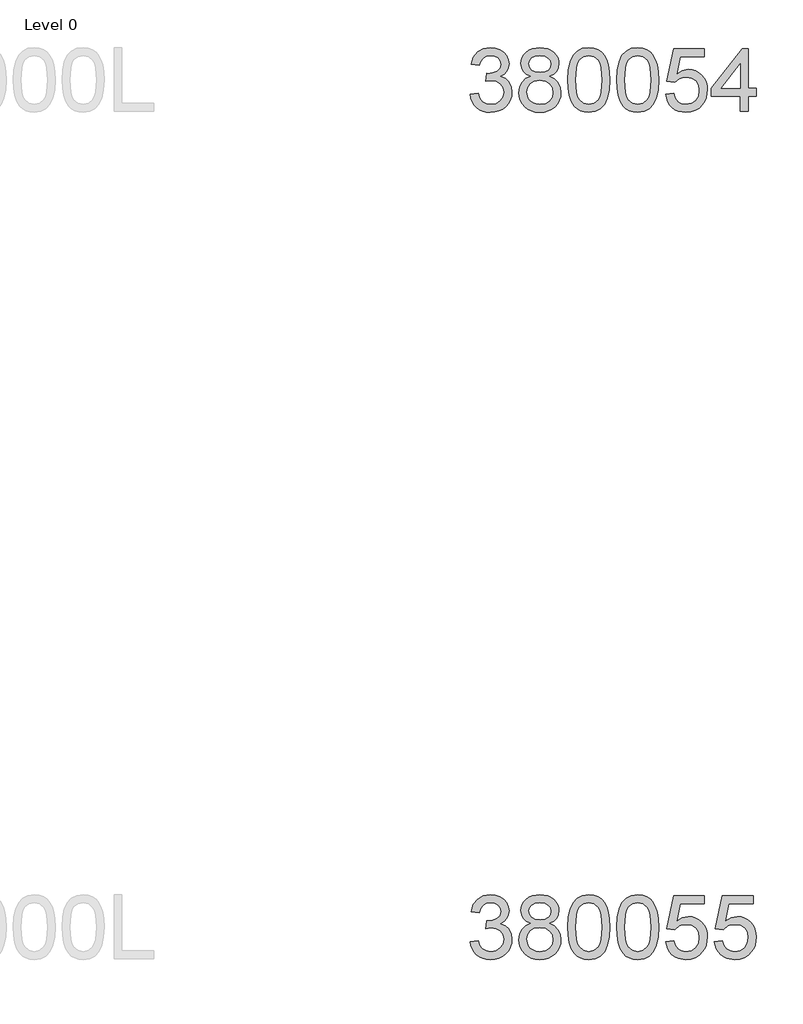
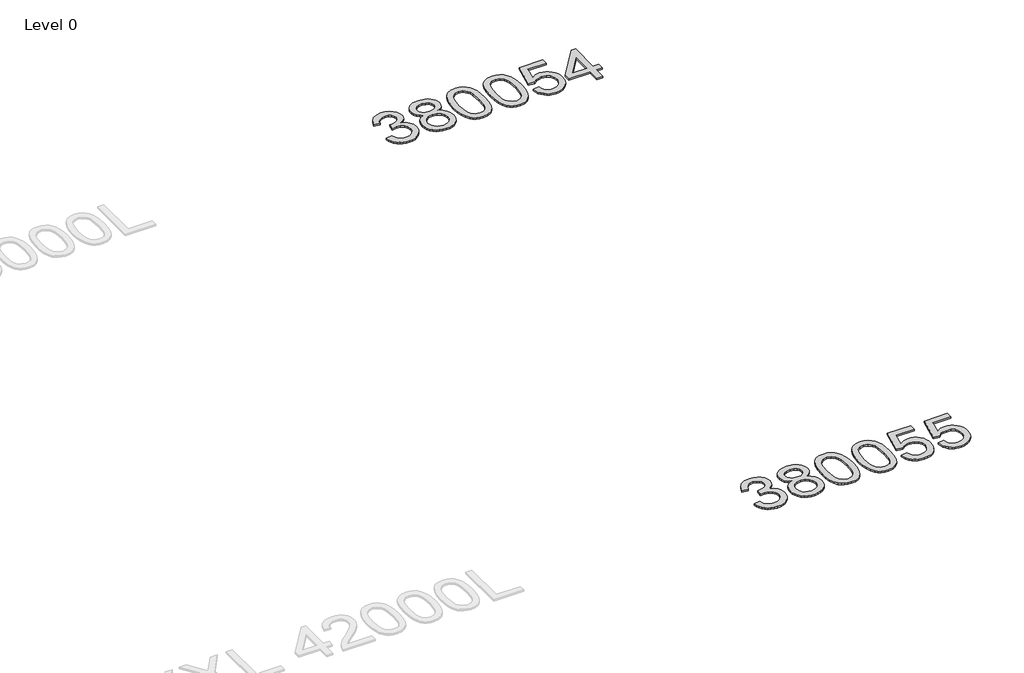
# One storey, part 11 of 37: 2 proxies.
"""IFC4 building model written with IfcOpenShell, lengths in millimetres."""

from ifc_helpers import new_model, si_unit, origin, origin_with_axes, place, context, project, spatial, polyline, outline, extrude, element, save

model = new_model("IFC4")

# Units and contexts
model_context = context("Model", 3, world=origin())
ifc_project = project(units=[si_unit("LENGTHUNIT", "METRE", prefix="MILLI")], contexts=[model_context])

# Site, building, storey
site = spatial("IfcSite", under=ifc_project)
building = spatial("IfcBuilding", under=site)
storey = spatial("IfcBuildingStorey", under=building, Name="Level 0", Elevation=0.0)

# Proxies
placement = place(None, origin())
element("IfcBuildingElementProxy", 1, Name="300mm Arial", ObjectType="300mm Arial", at=placement, inside=storey, context=model_context, shape_type="SweptSolid", body=[
    extrude(outline(polyline([(-6311.2846424, -17620.925676), (-6273.6135261, -17616.2167865), (-6265.1798313, -17639.8899929), (-6252.8281934, -17655.8744656), (-6235.9516068, -17664.979545), (-6213.9430665, -17668.0145714), (-6188.1177504, -17663.8391108), (-6168.1785463, -17651.3127288), (-6155.4314351, -17632.6243235), (-6151.1823981, -17609.9627926), (-6155.3946469, -17588.4508929), (-6168.0313935, -17571.0040893), (-6187.1612572, -17559.4433976), (-6210.8528577, -17555.5898337), (-6237.266785, -17559.710112), (-6233.0729302, -17522.0389957), (-6227.0396655, -17522.4804541), (-6204.4701051, -17519.7765215), (-6184.2917777, -17511.6647235), (-6170.0547444, -17497.942725), (-6165.3090667, -17478.4081911), (-6168.7487634, -17462.1386099), (-6179.0678533, -17448.9408433), (-6194.8132027, -17440.1944488), (-6214.5316777, -17437.278984), (-6234.2869408, -17440.22204), (-6250.4369604, -17449.0512079), (-6262.2275783, -17463.7664877), (-6268.9046365, -17484.3678794), (-6306.5757528, -17479.6589899), (-6295.4841107, -17445.8322404), (-6275.7472417, -17420.5771415), (-6248.7447032, -17404.8501862), (-6215.8560528, -17399.6078677), (-6192.1736494, -17402.1922387), (-6170.4226264, -17409.9453518), (-6152.083709, -17422.1774281), (-6138.637622, -17438.198689), (-6130.3878683, -17456.6571681), (-6127.6379504, -17476.2008991), (-6130.2499126, -17494.4110579), (-6138.0857991, -17510.9289595), (-6151.0352453, -17525.0004458), (-6168.9878867, -17535.8713587), (-6145.4066508, -17545.3995024), (-6127.932256, -17561.6230984), (-6117.1165253, -17583.6592299), (-6113.5112818, -17610.6249802), (-6115.3139036, -17629.7364498), (-6120.7217689, -17647.3396033), (-6129.7348778, -17663.4344406), (-6142.3532302, -17678.0209617), (-6157.7260991, -17690.1242793), (-6175.0027573, -17698.7695062), (-6194.1832048, -17703.9566423), (-6215.2674416, -17705.6856877), (-6234.323729, -17704.2095612), (-6251.6877592, -17699.7811817), (-6267.3595322, -17692.4005492), (-6281.339048, -17682.0676636), (-6293.0606881, -17669.3895304), (-6301.9588338, -17654.9731547), (-6308.0334853, -17638.8185366), (-6311.2846424, -17620.925676)])), origin_with_axes(), (0.0, 0.0, 1.0), 10.0),
    extrude(outline(polyline([(-6025.6610613, -17534.988442), (-6045.8301917, -17525.0556281), (-6059.9844515, -17511.5911471), (-6068.3445698, -17494.8709104), (-6071.1312759, -17475.1708295), (-6069.6137627, -17459.8071577), (-6065.061223, -17445.7218758), (-6057.4736569, -17432.9149839), (-6046.8510643, -17421.3864818), (-6033.7038815, -17411.8583382), (-6018.5425447, -17405.0525213), (-5982.1774095, -17399.6078677), (-5945.5915451, -17405.18128), (-5930.2646615, -17412.1480452), (-5916.9151436, -17421.9015166), (-5906.0994129, -17433.6553464), (-5898.373891, -17446.6231867), (-5893.7385779, -17460.8050376), (-5892.1934735, -17476.2008991), (-5894.9433914, -17495.2663835), (-5903.1931451, -17511.7015117), (-5917.0347052, -17525.0832192), (-5936.5600421, -17534.988442), (-5913.3742794, -17546.9354097), (-5896.4976928, -17564.5293662), (-5886.206194, -17586.9241826), (-5882.7756944, -17613.2737305), (-5884.4771486, -17632.0633034), (-5889.5815113, -17649.2893779), (-5898.0887825, -17664.9519538), (-5909.998962, -17679.0510313), (-5924.6866507, -17690.7036935), (-5941.526449, -17699.0270236), (-5960.518357, -17704.0210217), (-5981.6623747, -17705.6856877), (-6002.8063924, -17704.0141239), (-6021.7983004, -17698.9994325), (-6038.6380987, -17690.6416134), (-6053.3257874, -17678.9406667), (-6065.235967, -17664.7427209), (-6073.7432381, -17648.8939047), (-6078.8476008, -17631.3942181), (-6080.549055, -17612.2436609), (-6076.9805997, -17584.8732405), (-6066.2752336, -17562.3588624), (-6048.9847798, -17545.4730788), (-6025.6610613, -17534.988442)]), holes=[polyline([(-6033.4601596, -17476.2744755), (-6030.1216305, -17492.7188007), (-6020.1060432, -17505.8521879), (-6003.7077033, -17514.4606266), (-5981.2209163, -17517.3301062), (-5959.2583612, -17514.4790207), (-5943.1083416, -17505.9257643), (-5933.1755277, -17493.2338355), (-5929.8645898, -17477.9667327), (-5933.2858923, -17462.1202158), (-5943.5498, -17449.0144197), (-5959.9205488, -17440.2128429), (-5981.6623747, -17437.278984), (-6003.5421564, -17440.1484636), (-6019.885314, -17448.7569023), (-6030.0664482, -17461.3752547), (-6033.4601596, -17476.2744755)]), polyline([(-6042.8779387, -17610.9192858), (-6036.5871566, -17639.2829876), (-6027.8775504, -17651.4506846), (-6014.3302959, -17660.5097787), (-5998.1066999, -17666.1383732), (-5981.3680691, -17668.0145714), (-5955.726694, -17664.069037), (-5936.4864657, -17652.2324338), (-5924.4567245, -17634.3073836), (-5920.4468107, -17612.0965081), (-5924.5854832, -17589.5085536), (-5937.0015005, -17571.1880303), (-5956.6831872, -17559.0479244), (-5982.6188679, -17555.0012225), (-6007.901558, -17558.9927421), (-6026.9486483, -17570.9673011), (-6038.8956161, -17588.9383365), (-6042.8779387, -17610.9192858)])]), origin_with_axes(), (0.0, 0.0, 1.0), 10.0),
    extrude(outline(polyline([(-5849.8134676, -17552.7203541), (-5847.0451556, -17504.4818275), (-5838.7402196, -17466.0105679), (-5824.981433, -17436.717964), (-5805.8515692, -17416.0154047), (-5781.2126726, -17403.709752), (-5750.9267873, -17399.6078677), (-5727.7134334, -17402.0358889), (-5706.9281007, -17409.3199524), (-5689.5456764, -17421.1749497), (-5676.5410479, -17437.3157722), (-5666.7185986, -17457.6044643), (-5658.8827121, -17481.9030701), (-5653.7507583, -17512.7591724), (-5652.040107, -17552.7203541), (-5654.7808279, -17600.6829692), (-5663.0029905, -17639.0622584), (-5676.6790037, -17668.3824534), (-5695.7812763, -17689.1677861), (-5720.4753552, -17701.5562123), (-5750.9267873, -17705.6856877), (-5771.6753319, -17703.892263), (-5790.0694316, -17698.5119888), (-5806.1090866, -17689.5448652), (-5819.7942968, -17676.9908921), (-5832.9276841, -17654.2971715), (-5842.3086749, -17626.0208417), (-5847.9372695, -17592.1619025), (-5849.8134676, -17552.7203541)]), holes=[polyline([(-5812.1423513, -17552.6467777), (-5807.7277674, -17611.9033701), (-5802.2095375, -17632.1713688), (-5794.4840156, -17646.1991691), (-5774.7655406, -17662.5607208), (-5750.9267873, -17668.0145714), (-5727.088034, -17662.5423267), (-5707.3695591, -17646.1255927), (-5699.6440372, -17632.0747997), (-5694.1258073, -17611.8113996), (-5689.7112233, -17552.6467777), (-5693.9786545, -17494.7237576), (-5699.3129434, -17474.5224375), (-5706.7809479, -17460.1612441), (-5726.4626347, -17442.9995491), (-5751.3682457, -17437.278984), (-5774.9494816, -17442.3189674), (-5793.8954044, -17457.4389174), (-5801.8784437, -17473.0739022), (-5807.5806146, -17494.1535405), (-5812.1423513, -17552.6467777)])]), origin_with_axes(), (0.0, 0.0, 1.0), 10.0),
    extrude(outline(polyline([(-5619.0778803, -17552.7203541), (-5616.3095682, -17504.4818275), (-5608.0046322, -17466.0105679), (-5594.2458456, -17436.717964), (-5575.1159818, -17416.0154047), (-5550.4770852, -17403.709752), (-5520.1912, -17399.6078677), (-5496.9778461, -17402.0358889), (-5476.1925133, -17409.3199524), (-5458.8100891, -17421.1749497), (-5445.8054605, -17437.3157722), (-5435.9830113, -17457.6044643), (-5428.1471248, -17481.9030701), (-5423.0151709, -17512.7591724), (-5421.3045197, -17552.7203541), (-5424.0452405, -17600.6829692), (-5432.2674031, -17639.0622584), (-5445.9434163, -17668.3824534), (-5465.0456889, -17689.1677861), (-5489.7397678, -17701.5562123), (-5520.1912, -17705.6856877), (-5540.9397445, -17703.892263), (-5559.3338442, -17698.5119888), (-5575.3734992, -17689.5448652), (-5589.0587095, -17676.9908921), (-5602.1920967, -17654.2971715), (-5611.5730876, -17626.0208417), (-5617.2016821, -17592.1619025), (-5619.0778803, -17552.7203541)]), holes=[polyline([(-5581.406764, -17552.6467777), (-5576.99218, -17611.9033701), (-5571.4739501, -17632.1713688), (-5563.7484282, -17646.1991691), (-5544.0299532, -17662.5607208), (-5520.1912, -17668.0145714), (-5496.3524467, -17662.5423267), (-5476.6339717, -17646.1255927), (-5468.9084498, -17632.0747997), (-5463.3902199, -17611.8113996), (-5458.975636, -17552.6467777), (-5463.2430671, -17494.7237576), (-5468.577356, -17474.5224375), (-5476.0453605, -17460.1612441), (-5495.7270473, -17442.9995491), (-5520.6326584, -17437.278984), (-5544.2138942, -17442.3189674), (-5563.159817, -17457.4389174), (-5571.1428563, -17473.0739022), (-5576.8450272, -17494.1535405), (-5581.406764, -17552.6467777)])]), origin_with_axes(), (0.0, 0.0, 1.0), 10.0),
    extrude(outline(polyline([(-5388.3422929, -17620.925676), (-5350.6711766, -17616.2167865), (-5343.7549951, -17638.8323321), (-5331.6884656, -17655.028337), (-5314.5267706, -17664.7680128), (-5292.3250921, -17668.0145714), (-5265.3225537, -17663.4988199), (-5245.089044, -17649.9515654), (-5232.4522974, -17628.9363065), (-5228.2400486, -17602.0165415), (-5232.185583, -17576.669472), (-5244.0221862, -17557.2820909), (-5263.8418287, -17544.9764381), (-5291.736481, -17540.8745539), (-5310.0110191, -17542.5116288), (-5324.8090723, -17547.4228534), (-5345.962287, -17564.4190016), (-5383.6334033, -17559.710112), (-5350.6711766, -17404.3167573), (-5204.6956009, -17404.3167573), (-5204.6956009, -17441.9878736), (-5320.2105474, -17441.9878736), (-5336.3237788, -17524.9820517), (-5309.4132108, -17508.6480911), (-5281.2150559, -17503.2034376), (-5262.8692406, -17504.8910962), (-5246.017946, -17509.9540722), (-5230.661172, -17518.3923654), (-5216.7989185, -17530.205976), (-5205.3232995, -17544.6729355), (-5197.1264288, -17561.0712754), (-5192.2083064, -17579.4009958), (-5190.5689323, -17599.6620967), (-5196.4734383, -17637.333213), (-5203.8540708, -17654.1270261), (-5214.1869564, -17669.5596758), (-5229.8403353, -17685.364806), (-5248.1056763, -17696.6541847), (-5268.9829796, -17703.427812), (-5292.4722449, -17705.6856877), (-5329.4719766, -17699.8823492), (-5345.1506474, -17692.6281762), (-5358.9485215, -17682.4723338), (-5370.428739, -17669.92066), (-5379.1544401, -17655.4789924), (-5388.3422929, -17620.925676)])), origin_with_axes(), (0.0, 0.0, 1.0), 10.0),
    extrude(outline(polyline([(-5035.1755775, -17700.9767982), (-5035.1755775, -17630.3434551), (-5171.7333741, -17630.3434551), (-5171.7333741, -17592.6723388), (-5025.7577984, -17404.3167573), (-4997.5044612, -17404.3167573), (-4997.5044612, -17592.6723388), (-4959.8333449, -17592.6723388), (-4959.8333449, -17630.3434551), (-4997.5044612, -17630.3434551), (-4997.5044612, -17700.9767982), (-5035.1755775, -17700.9767982)]), holes=[polyline([(-5035.1755775, -17592.6723388), (-5035.1755775, -17476.2744755), (-5125.3802427, -17592.6723388), (-5035.1755775, -17592.6723388)])]), origin_with_axes(), (0.0, 0.0, 1.0), 10.0),
])
element("IfcBuildingElementProxy", 2, Name="300mm Arial", ObjectType="300mm Arial", at=placement, inside=storey, context=model_context, shape_type="SweptSolid", body=[
    extrude(outline(polyline([(-6311.2846424, -21620.925676), (-6273.6135261, -21616.2167865), (-6265.1798313, -21639.8899929), (-6252.8281934, -21655.8744656), (-6235.9516068, -21664.979545), (-6213.9430665, -21668.0145714), (-6188.1177504, -21663.8391108), (-6168.1785463, -21651.3127288), (-6155.4314351, -21632.6243235), (-6151.1823981, -21609.9627926), (-6155.3946469, -21588.4508929), (-6168.0313935, -21571.0040893), (-6187.1612572, -21559.4433976), (-6210.8528577, -21555.5898337), (-6237.266785, -21559.710112), (-6233.0729302, -21522.0389957), (-6227.0396655, -21522.4804541), (-6204.4701051, -21519.7765215), (-6184.2917777, -21511.6647235), (-6170.0547444, -21497.942725), (-6165.3090667, -21478.4081911), (-6168.7487634, -21462.1386099), (-6179.0678533, -21448.9408433), (-6194.8132027, -21440.1944488), (-6214.5316777, -21437.278984), (-6234.2869408, -21440.22204), (-6250.4369604, -21449.0512079), (-6262.2275783, -21463.7664877), (-6268.9046365, -21484.3678794), (-6306.5757528, -21479.6589899), (-6295.4841107, -21445.8322404), (-6275.7472417, -21420.5771415), (-6248.7447032, -21404.8501862), (-6215.8560528, -21399.6078677), (-6192.1736494, -21402.1922387), (-6170.4226264, -21409.9453518), (-6152.083709, -21422.1774281), (-6138.637622, -21438.198689), (-6130.3878683, -21456.6571681), (-6127.6379504, -21476.2008991), (-6130.2499126, -21494.4110579), (-6138.0857991, -21510.9289595), (-6151.0352453, -21525.0004458), (-6168.9878867, -21535.8713587), (-6145.4066508, -21545.3995024), (-6127.932256, -21561.6230984), (-6117.1165253, -21583.6592299), (-6113.5112818, -21610.6249802), (-6115.3139036, -21629.7364498), (-6120.7217689, -21647.3396033), (-6129.7348778, -21663.4344406), (-6142.3532302, -21678.0209617), (-6157.7260991, -21690.1242793), (-6175.0027573, -21698.7695062), (-6194.1832048, -21703.9566423), (-6215.2674416, -21705.6856877), (-6234.323729, -21704.2095612), (-6251.6877592, -21699.7811817), (-6267.3595322, -21692.4005492), (-6281.339048, -21682.0676636), (-6293.0606881, -21669.3895304), (-6301.9588338, -21654.9731547), (-6308.0334853, -21638.8185366), (-6311.2846424, -21620.925676)])), origin_with_axes(), (0.0, 0.0, 1.0), 10.0),
    extrude(outline(polyline([(-6025.6610613, -21534.988442), (-6045.8301917, -21525.0556281), (-6059.9844515, -21511.5911471), (-6068.3445698, -21494.8709104), (-6071.1312759, -21475.1708295), (-6069.6137627, -21459.8071577), (-6065.061223, -21445.7218758), (-6057.4736569, -21432.9149839), (-6046.8510643, -21421.3864818), (-6033.7038815, -21411.8583382), (-6018.5425447, -21405.0525213), (-5982.1774095, -21399.6078677), (-5945.5915451, -21405.18128), (-5930.2646615, -21412.1480452), (-5916.9151436, -21421.9015166), (-5906.0994129, -21433.6553464), (-5898.373891, -21446.6231867), (-5893.7385779, -21460.8050376), (-5892.1934735, -21476.2008991), (-5894.9433914, -21495.2663835), (-5903.1931451, -21511.7015117), (-5917.0347052, -21525.0832192), (-5936.5600421, -21534.988442), (-5913.3742794, -21546.9354097), (-5896.4976928, -21564.5293662), (-5886.206194, -21586.9241826), (-5882.7756944, -21613.2737305), (-5884.4771486, -21632.0633034), (-5889.5815113, -21649.2893779), (-5898.0887825, -21664.9519538), (-5909.998962, -21679.0510313), (-5924.6866507, -21690.7036935), (-5941.526449, -21699.0270236), (-5960.518357, -21704.0210217), (-5981.6623747, -21705.6856877), (-6002.8063924, -21704.0141239), (-6021.7983004, -21698.9994325), (-6038.6380987, -21690.6416134), (-6053.3257874, -21678.9406667), (-6065.235967, -21664.7427209), (-6073.7432381, -21648.8939047), (-6078.8476008, -21631.3942181), (-6080.549055, -21612.2436609), (-6076.9805997, -21584.8732405), (-6066.2752336, -21562.3588624), (-6048.9847798, -21545.4730788), (-6025.6610613, -21534.988442)]), holes=[polyline([(-6033.4601596, -21476.2744755), (-6030.1216305, -21492.7188007), (-6020.1060432, -21505.8521879), (-6003.7077033, -21514.4606266), (-5981.2209163, -21517.3301062), (-5959.2583612, -21514.4790207), (-5943.1083416, -21505.9257643), (-5933.1755277, -21493.2338355), (-5929.8645898, -21477.9667327), (-5933.2858923, -21462.1202158), (-5943.5498, -21449.0144197), (-5959.9205488, -21440.2128429), (-5981.6623747, -21437.278984), (-6003.5421564, -21440.1484636), (-6019.885314, -21448.7569023), (-6030.0664482, -21461.3752547), (-6033.4601596, -21476.2744755)]), polyline([(-6042.8779387, -21610.9192858), (-6036.5871566, -21639.2829876), (-6027.8775504, -21651.4506846), (-6014.3302959, -21660.5097787), (-5998.1066999, -21666.1383732), (-5981.3680691, -21668.0145714), (-5955.726694, -21664.069037), (-5936.4864657, -21652.2324338), (-5924.4567245, -21634.3073836), (-5920.4468107, -21612.0965081), (-5924.5854832, -21589.5085536), (-5937.0015005, -21571.1880303), (-5956.6831872, -21559.0479244), (-5982.6188679, -21555.0012225), (-6007.901558, -21558.9927421), (-6026.9486483, -21570.9673011), (-6038.8956161, -21588.9383365), (-6042.8779387, -21610.9192858)])]), origin_with_axes(), (0.0, 0.0, 1.0), 10.0),
    extrude(outline(polyline([(-5849.8134676, -21552.7203541), (-5847.0451556, -21504.4818275), (-5838.7402196, -21466.0105679), (-5824.981433, -21436.717964), (-5805.8515692, -21416.0154047), (-5781.2126726, -21403.709752), (-5750.9267873, -21399.6078677), (-5727.7134334, -21402.0358889), (-5706.9281007, -21409.3199524), (-5689.5456764, -21421.1749497), (-5676.5410479, -21437.3157722), (-5666.7185986, -21457.6044643), (-5658.8827121, -21481.9030701), (-5653.7507583, -21512.7591724), (-5652.040107, -21552.7203541), (-5654.7808279, -21600.6829692), (-5663.0029905, -21639.0622584), (-5676.6790037, -21668.3824534), (-5695.7812763, -21689.1677861), (-5720.4753552, -21701.5562123), (-5750.9267873, -21705.6856877), (-5771.6753319, -21703.892263), (-5790.0694316, -21698.5119888), (-5806.1090866, -21689.5448652), (-5819.7942968, -21676.9908921), (-5832.9276841, -21654.2971715), (-5842.3086749, -21626.0208417), (-5847.9372695, -21592.1619025), (-5849.8134676, -21552.7203541)]), holes=[polyline([(-5812.1423513, -21552.6467777), (-5807.7277674, -21611.9033701), (-5802.2095375, -21632.1713688), (-5794.4840156, -21646.1991691), (-5774.7655406, -21662.5607208), (-5750.9267873, -21668.0145714), (-5727.088034, -21662.5423267), (-5707.3695591, -21646.1255927), (-5699.6440372, -21632.0747997), (-5694.1258073, -21611.8113996), (-5689.7112233, -21552.6467777), (-5693.9786545, -21494.7237576), (-5699.3129434, -21474.5224375), (-5706.7809479, -21460.1612441), (-5726.4626347, -21442.9995491), (-5751.3682457, -21437.278984), (-5774.9494816, -21442.3189674), (-5793.8954044, -21457.4389174), (-5801.8784437, -21473.0739022), (-5807.5806146, -21494.1535405), (-5812.1423513, -21552.6467777)])]), origin_with_axes(), (0.0, 0.0, 1.0), 10.0),
    extrude(outline(polyline([(-5619.0778803, -21552.7203541), (-5616.3095682, -21504.4818275), (-5608.0046322, -21466.0105679), (-5594.2458456, -21436.717964), (-5575.1159818, -21416.0154047), (-5550.4770852, -21403.709752), (-5520.1912, -21399.6078677), (-5496.9778461, -21402.0358889), (-5476.1925133, -21409.3199524), (-5458.8100891, -21421.1749497), (-5445.8054605, -21437.3157722), (-5435.9830113, -21457.6044643), (-5428.1471248, -21481.9030701), (-5423.0151709, -21512.7591724), (-5421.3045197, -21552.7203541), (-5424.0452405, -21600.6829692), (-5432.2674031, -21639.0622584), (-5445.9434163, -21668.3824534), (-5465.0456889, -21689.1677861), (-5489.7397678, -21701.5562123), (-5520.1912, -21705.6856877), (-5540.9397445, -21703.892263), (-5559.3338442, -21698.5119888), (-5575.3734992, -21689.5448652), (-5589.0587095, -21676.9908921), (-5602.1920967, -21654.2971715), (-5611.5730876, -21626.0208417), (-5617.2016821, -21592.1619025), (-5619.0778803, -21552.7203541)]), holes=[polyline([(-5581.406764, -21552.6467777), (-5576.99218, -21611.9033701), (-5571.4739501, -21632.1713688), (-5563.7484282, -21646.1991691), (-5544.0299532, -21662.5607208), (-5520.1912, -21668.0145714), (-5496.3524467, -21662.5423267), (-5476.6339717, -21646.1255927), (-5468.9084498, -21632.0747997), (-5463.3902199, -21611.8113996), (-5458.975636, -21552.6467777), (-5463.2430671, -21494.7237576), (-5468.577356, -21474.5224375), (-5476.0453605, -21460.1612441), (-5495.7270473, -21442.9995491), (-5520.6326584, -21437.278984), (-5544.2138942, -21442.3189674), (-5563.159817, -21457.4389174), (-5571.1428563, -21473.0739022), (-5576.8450272, -21494.1535405), (-5581.406764, -21552.6467777)])]), origin_with_axes(), (0.0, 0.0, 1.0), 10.0),
    extrude(outline(polyline([(-5388.3422929, -21620.925676), (-5350.6711766, -21616.2167865), (-5343.7549951, -21638.8323321), (-5331.6884656, -21655.028337), (-5314.5267706, -21664.7680128), (-5292.3250921, -21668.0145714), (-5265.3225537, -21663.4988199), (-5245.089044, -21649.9515654), (-5232.4522974, -21628.9363065), (-5228.2400486, -21602.0165415), (-5232.185583, -21576.669472), (-5244.0221862, -21557.2820909), (-5263.8418287, -21544.9764381), (-5291.736481, -21540.8745539), (-5310.0110191, -21542.5116288), (-5324.8090723, -21547.4228534), (-5345.962287, -21564.4190016), (-5383.6334033, -21559.710112), (-5350.6711766, -21404.3167573), (-5204.6956009, -21404.3167573), (-5204.6956009, -21441.9878736), (-5320.2105474, -21441.9878736), (-5336.3237788, -21524.9820517), (-5309.4132108, -21508.6480911), (-5281.2150559, -21503.2034376), (-5262.8692406, -21504.8910962), (-5246.017946, -21509.9540722), (-5230.661172, -21518.3923654), (-5216.7989185, -21530.205976), (-5205.3232995, -21544.6729355), (-5197.1264288, -21561.0712754), (-5192.2083064, -21579.4009958), (-5190.5689323, -21599.6620967), (-5196.4734383, -21637.333213), (-5203.8540708, -21654.1270261), (-5214.1869564, -21669.5596758), (-5229.8403353, -21685.364806), (-5248.1056763, -21696.6541847), (-5268.9829796, -21703.427812), (-5292.4722449, -21705.6856877), (-5329.4719766, -21699.8823492), (-5345.1506474, -21692.6281762), (-5358.9485215, -21682.4723338), (-5370.428739, -21669.92066), (-5379.1544401, -21655.4789924), (-5388.3422929, -21620.925676)])), origin_with_axes(), (0.0, 0.0, 1.0), 10.0),
    extrude(outline(polyline([(-5157.6067055, -21620.925676), (-5119.9355892, -21616.2167865), (-5113.0194077, -21638.8323321), (-5100.9528783, -21655.028337), (-5083.7911832, -21664.7680128), (-5061.5895048, -21668.0145714), (-5034.5869663, -21663.4988199), (-5014.3534566, -21649.9515654), (-5001.7167101, -21628.9363065), (-4997.5044612, -21602.0165415), (-5001.4499956, -21576.669472), (-5013.2865988, -21557.2820909), (-5033.1062413, -21544.9764381), (-5061.0008936, -21540.8745539), (-5079.2754317, -21542.5116288), (-5094.0734849, -21547.4228534), (-5115.2266997, -21564.4190016), (-5152.897816, -21559.710112), (-5119.9355892, -21404.3167573), (-4973.9600135, -21404.3167573), (-4973.9600135, -21441.9878736), (-5089.47496, -21441.9878736), (-5105.5881914, -21524.9820517), (-5078.6776234, -21508.6480911), (-5050.4794685, -21503.2034376), (-5032.1336533, -21504.8910962), (-5015.2823586, -21509.9540722), (-4999.9255846, -21518.3923654), (-4986.0633312, -21530.205976), (-4974.5877122, -21544.6729355), (-4966.3908415, -21561.0712754), (-4961.472719, -21579.4009958), (-4959.8333449, -21599.6620967), (-4965.7378509, -21637.333213), (-4973.1184835, -21654.1270261), (-4983.451369, -21669.5596758), (-4999.1047479, -21685.364806), (-5017.370089, -21696.6541847), (-5038.2473922, -21703.427812), (-5061.7366576, -21705.6856877), (-5098.7363892, -21699.8823492), (-5114.41506, -21692.6281762), (-5128.2129341, -21682.4723338), (-5139.6931516, -21669.92066), (-5148.4188527, -21655.4789924), (-5157.6067055, -21620.925676)])), origin_with_axes(), (0.0, 0.0, 1.0), 10.0),
])

save(model, "model.ifc")
